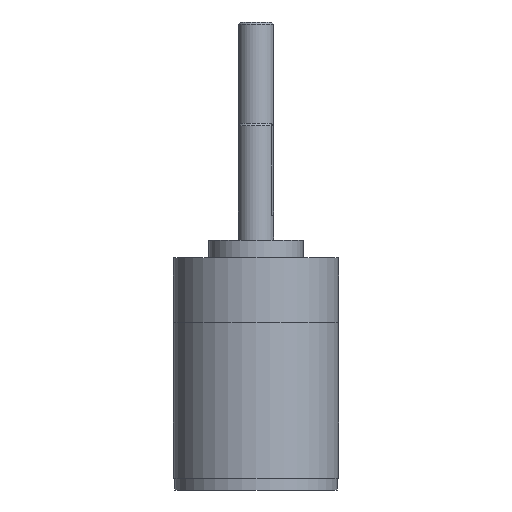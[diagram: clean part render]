
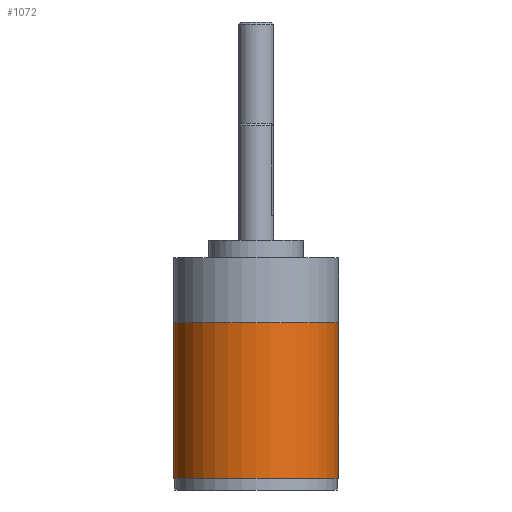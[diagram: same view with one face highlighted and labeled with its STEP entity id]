
A CAD part, left-side view. The second image highlights one B-rep face of the part: STEP entity #1072.
In plain terms, the highlighted cylindrical face has radius 7 mm (diameter 14 mm), a full revolution.
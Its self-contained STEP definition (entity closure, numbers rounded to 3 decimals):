
#1005=CYLINDRICAL_SURFACE('',#3263,7.);
#1072=ADVANCED_FACE('',(#1372,#1373),#1005,.T.);
#1372=FACE_BOUND('',#1573,.T.);
#1373=FACE_BOUND('',#1574,.T.);
#1573=EDGE_LOOP('',(#1880));
#1574=EDGE_LOOP('',(#1881));
#1880=ORIENTED_EDGE('',*,*,#2781,.F.);
#1881=ORIENTED_EDGE('',*,*,#2790,.T.);
#2526=VERTEX_POINT('',#4153);
#2535=VERTEX_POINT('',#4176);
#2781=EDGE_CURVE('',#2526,#2526,#3113,.T.);
#2790=EDGE_CURVE('',#2535,#2535,#3122,.T.);
#3113=CIRCLE('',#3247,7.);
#3122=CIRCLE('',#3261,7.);
#3247=AXIS2_PLACEMENT_3D('',#4152,#3544,#3545);
#3261=AXIS2_PLACEMENT_3D('',#4175,#3572,#3573);
#3263=AXIS2_PLACEMENT_3D('',#4178,#3576,#3577);
#3544=DIRECTION('',(0.,0.,-1.));
#3545=DIRECTION('',(1.,0.,0.));
#3572=DIRECTION('',(0.,0.,-1.));
#3573=DIRECTION('',(1.,0.,0.));
#3576=DIRECTION('',(0.,0.,1.));
#3577=DIRECTION('',(1.,0.,0.));
#4152=CARTESIAN_POINT('',(0.,0.,1.));
#4153=CARTESIAN_POINT('',(7.,0.,1.));
#4175=CARTESIAN_POINT('',(0.,0.,14.199));
#4176=CARTESIAN_POINT('',(7.,0.,14.199));
#4178=CARTESIAN_POINT('',(0.,0.,14.2));
